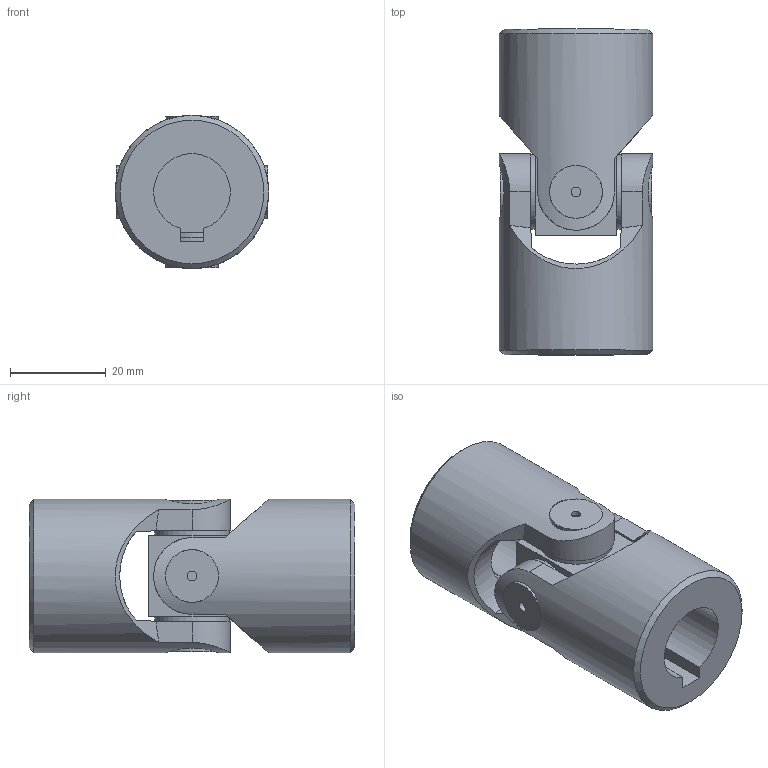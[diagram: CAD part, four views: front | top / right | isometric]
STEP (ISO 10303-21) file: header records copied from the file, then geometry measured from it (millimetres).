
FILE_DESCRIPTION(/* description */ (''),/* implementation_level */ '2;1');
FILE_NAME(/* name */ '\\SRV2016\societa\Stefano\Disegni 3D\Dis. Clienti\0000Catalogo 3D\01Singoli G-GB\SG0S161C.stp',/* time_stamp */ '2021-11-08T16:49:27+01:00',/* author */ ('acquisti'),/* organization */ (''),/* preprocessor_version */ 'ST-DEVELOPER v15.6',/* originating_system */ 'Autodesk Inventor 2015',/* authorisation */ '');
FILE_SCHEMA (('AUTOMOTIVE_DESIGN { 1 0 10303 214 3 1 1 }'));
Length unit declared in the file: millimetre
Products named in the file (4): 1G SFE; 1G MOS; 1G MOC; Assieme1
Assembly tree (3 placements, depth 2):
  Assieme1
    1G SFE
    1G MOS
    1G MOC
Bounding box: 32 x 68 x 32 mm (x, y, z)
Volume: 37395.1 mm3; surface area: 13762.6 mm2
Topology: 3 solids, 3 shells, 87 faces, 201 edges, 130 vertices
Faces by surface type: plane 39, cylinder 34, cone 12, torus 2
Full cylindrical faces by diameter (mm): 2 x4, 15.5 x4, 16 x1, 18 x1, 32 x2
Entity records: 2804 total; most frequent: CARTESIAN_POINT 921, DIRECTION 369, ORIENTED_EDGE 358, EDGE_CURVE 179, AXIS2_PLACEMENT_3D 162, VERTEX_POINT 125, EDGE_LOOP 118, FACE_OUTER_BOUND 87
